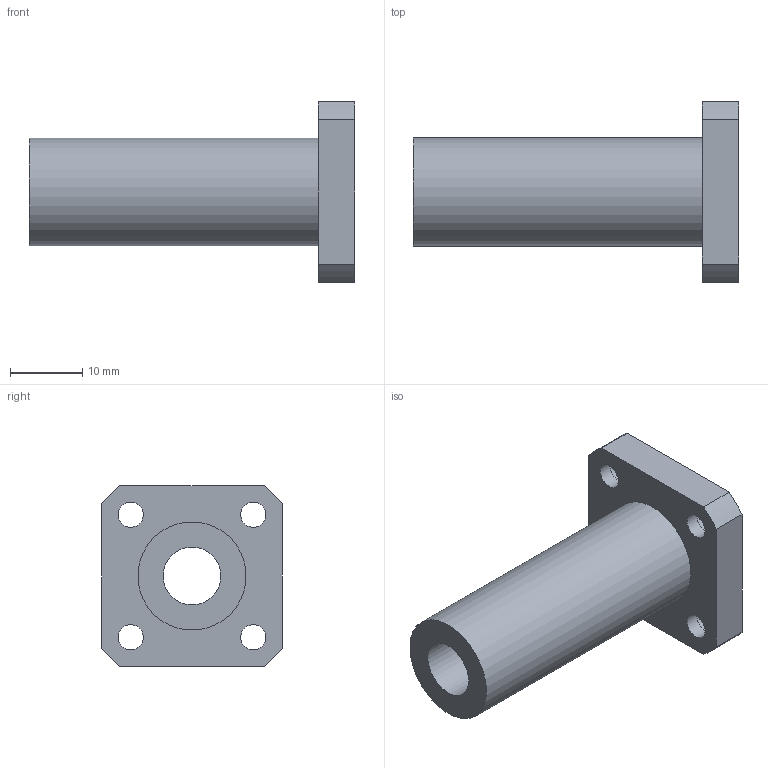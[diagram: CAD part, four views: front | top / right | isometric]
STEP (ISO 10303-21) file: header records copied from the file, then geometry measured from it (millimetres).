
FILE_DESCRIPTION(/* description */ (''),/* implementation_level */ '2;1');
FILE_NAME(/* name */ 'LMK8LUU',/* time_stamp */ '2019-07-09T15:49:06+02:00',/* author */ ('VĂ©gh MĂˇtĂ©'),/* organization */ ('Bearing Kft'),/* preprocessor_version */ 'ST-DEVELOPER v16.7',/* originating_system */ 'DEX',/* authorisation */ $);
FILE_SCHEMA (('AUTOMOTIVE_DESIGN {1 0 10303 214 3 1 1}'));
Length unit declared in the file: millimetre
Products named in the file (1): LMK8LUU
Bounding box: 45 x 25 x 25 mm (x, y, z)
Volume: 7448.8 mm3; surface area: 4863.1 mm2
Topology: 1 solids, 1 shells, 331 faces, 831 edges, 554 vertices
Faces by surface type: plane 252, bspline 63, cylinder 16
Full cylindrical faces by diameter (mm): 3.5 x4, 6 x4, 8 x1, 15 x1
Entity records: 12266 total; most frequent: CARTESIAN_POINT 4709, ORIENTED_EDGE 1636, DIRECTION 1262, EDGE_CURVE 818, LINE 660, VECTOR 660, VERTEX_POINT 554, EDGE_LOOP 406
